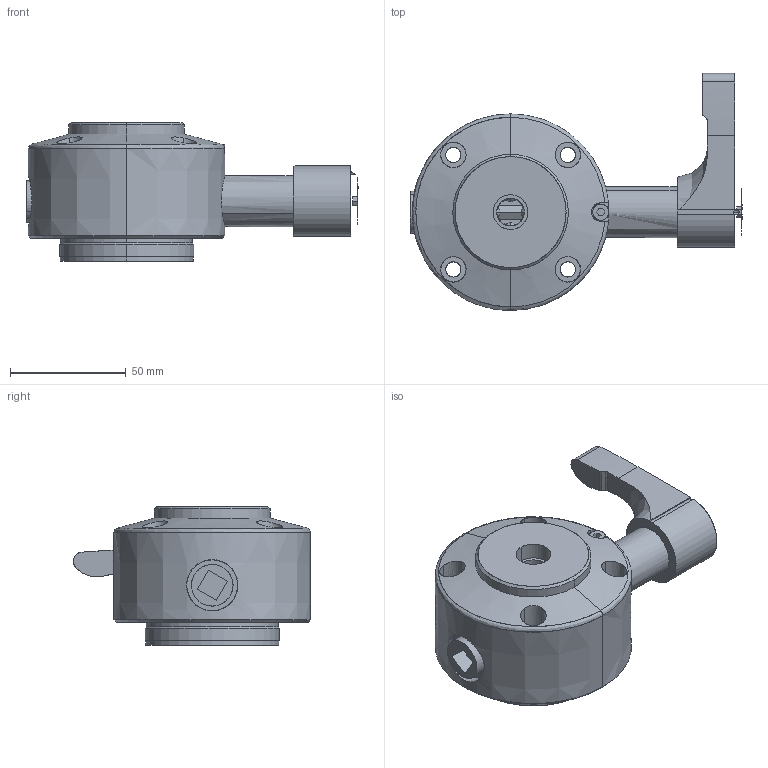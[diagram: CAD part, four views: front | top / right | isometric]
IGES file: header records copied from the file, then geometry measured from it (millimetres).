
Start section: SolidWorks IGES file using analytic representation for surfaces
Global section: file name: X:\14_SW2023(ver2023)\09_2025-03新製品(WHS)\OTC\＠データ\qlpdw85-300\QLPDW85-300.IGS; native system: SolidWorks 2023; preprocessor: SolidWorks 2023; author: yozawa; date: 241108.152624; units: millimetre
Bounding box: 143.57 x 102.5 x 60 mm (x, y, z)
Surface area: 69932.7 mm2 (no closed solid volume)
Topology: 0 solids, 0 shells, 273 faces, 6228 edges, 6228 vertices
Faces by surface type: revolution 171, bspline 102
